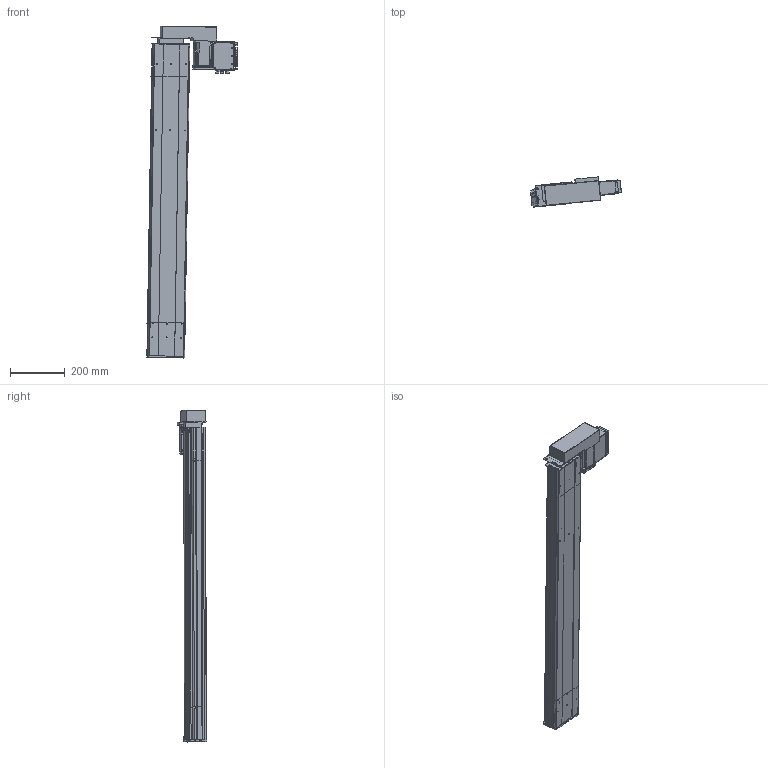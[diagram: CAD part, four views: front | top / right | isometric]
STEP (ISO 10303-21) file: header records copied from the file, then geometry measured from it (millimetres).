
FILE_DESCRIPTION (( 'STEP AP203' ), '1' );
FILE_NAME ('D14 TSH M4 BL L10 S900.STEP', '2012-10-11T07:53:51', ( '' ), ( '' ), 'SwSTEP 2.0', 'SolidWorks 2010', '' );
FILE_SCHEMA (( 'CONFIG_CONTROL_DESIGN' ));
Length unit declared in the file: millimetre
Products named in the file (22): Pièce902; Pièce900; plaque de bout head D14 BL; D14 TSH M4 BL L10 S900; plaque de  bout head D14 MD_Default_2; corpl tail D14_Default_2; Moteur_2; T犨e contre le moteur_2; Tôle Arrière_2; Couvercle_2; Tôle latérale_2; Connecteur rond D12 4cts_2; Radiateur_2; Vis TF 3 torkx_2; plaque de  bout tail D14_Default_2; couvercle D14 head_Default_2; corp head D14_Default_2; Sub D 9cts_2; T犨e fond_2; Connecteur rond D10 3cts_2; Moteur 70BLDC90A_2; Colonnette_2
Assembly tree (49 placements, depth 3):
  D14 TSH M4 BL L10 S900
    couvercle D14 head_Default_2  x2
    plaque de bout head D14 BL
    Pièce902
    corpl tail D14_Default_2
    corp head D14_Default_2
    Pièce900
    plaque de  bout head D14 MD_Default_2
    Moteur_2
      Vis TF 3 torkx_2  x26
      Couvercle_2
      Tôle latérale_2  x2
      Tôle Arrière_2
      Connecteur rond D10 3cts_2  x2
      Sub D 9cts_2
      T犨e fond_2
      T犨e contre le moteur_2
      Connecteur rond D12 4cts_2
      Radiateur_2
      Moteur 70BLDC90A_2
      Colonnette_2
    plaque de  bout tail D14_Default_2
Bounding box: 332.58 x 108.78 x 1213.65 mm (x, y, z)
Volume: 4533012.4 mm3; surface area: 1383030.7 mm2
Topology: 70 solids, 70 shells, 2406 faces, 6282 edges, 4141 vertices
Faces by surface type: plane 1299, cylinder 843, cone 134, bspline 130
Entity records: 64484 total; most frequent: CARTESIAN_POINT 20825, ORIENTED_EDGE 8522, DIRECTION 8148, EDGE_CURVE 4261, VECTOR 2848, LINE 2848, VERTEX_POINT 2815, AXIS2_PLACEMENT_3D 2650
